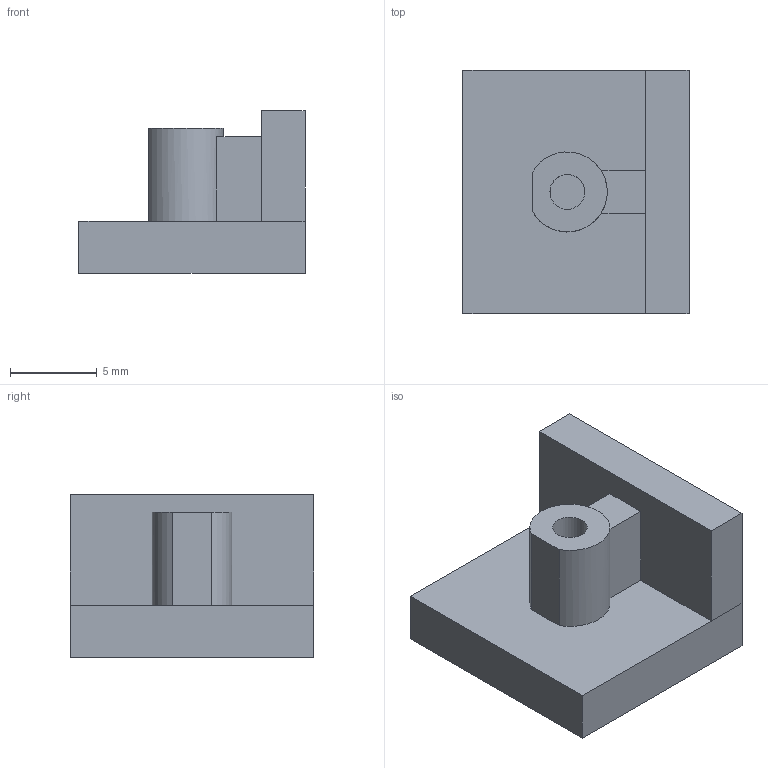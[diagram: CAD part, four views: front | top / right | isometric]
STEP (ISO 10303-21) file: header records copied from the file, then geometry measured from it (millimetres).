
FILE_DESCRIPTION(('Open CASCADE Model'),'2;1');
FILE_NAME('Open CASCADE Shape Model','2026-09-15T13:32:55',('Author'),( 'Open CASCADE'),'Open CASCADE STEP processor 7.7','Open CASCADE 7.7' ,'Unknown');
FILE_SCHEMA(('AUTOMOTIVE_DESIGN { 1 0 10303 214 1 1 1 1 }'));
Length unit declared in the file: millimetre
Products named in the file (1): QP01_CLOSURE_PILOT_D2.0
Bounding box: 13 x 14 x 9.35 mm (x, y, z)
Volume: 864 mm3; surface area: 850 mm2
Topology: 1 solids, 1 shells, 20 faces, 47 edges, 30 vertices
Faces by surface type: plane 17, cylinder 3
Full cylindrical faces by diameter (mm): 2 x1
Entity records: 1171 total; most frequent: CARTESIAN_POINT 209, DIRECTION 174, LINE 108, VECTOR 108, ORIENTED_EDGE 94, PCURVE 94, DEFINITIONAL_REPRESENTATION 94, EDGE_CURVE 47
